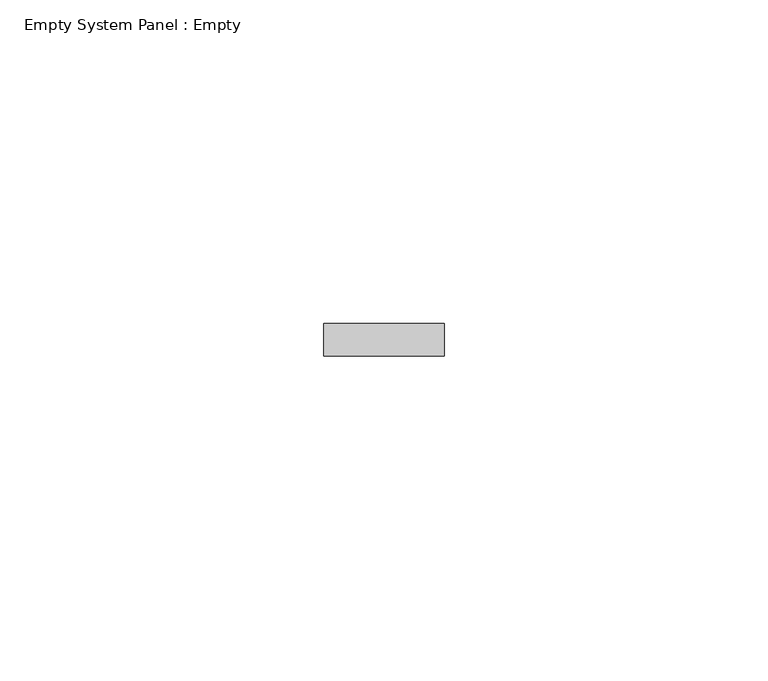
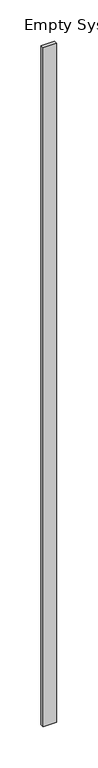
"""IFC4 building model written with IfcOpenShell, lengths in millimetres: plate geometry, Empty System Panel : Empty."""

from ifc_helpers import new_model, si_unit, origin, origin_with_axes, place, context, project, spatial, polyline, outline, extrude, source, transform, mapped, element, save


def empty_system_panel_empty_2e64bfd6(model_context):
    return source(origin(), model_context, "Body", "SweptSolid", [
        extrude(outline(polyline([(9.2999162, 97.5), (-9.2999162, 97.5), (-9.2999162, 102.5), (9.2999162, 102.5), (9.2999162, 97.5)])), origin_with_axes(), (0.0, 0.0, 1.0), 1000.0),
    ])


if __name__ == "__main__":
    model = new_model("IFC4")
    model_context = context("Model", 3, world=origin())
    ifc_project = project(units=[si_unit("LENGTHUNIT", "METRE", prefix="MILLI")], contexts=[model_context])
    site = spatial("IfcSite", under=ifc_project)
    building = spatial("IfcBuilding", under=site)
    placement = place(None, origin())
    empty_system_panel_empty_shape = empty_system_panel_empty_2e64bfd6(model_context)
    element("IfcPlate", 1, ObjectType="Empty System Panel : Empty", at=placement, inside=building, context=model_context, shape_type="MappedRepresentation", body=[
        mapped(empty_system_panel_empty_shape, transform((0.0, 0.0, 0.0), x_axis=(1.0, 0.0, 0.0), y_axis=(0.0, 1.0, 0.0), z_axis=(0.0, 0.0, 1.0))),
    ])
    save(model, "model.ifc")
